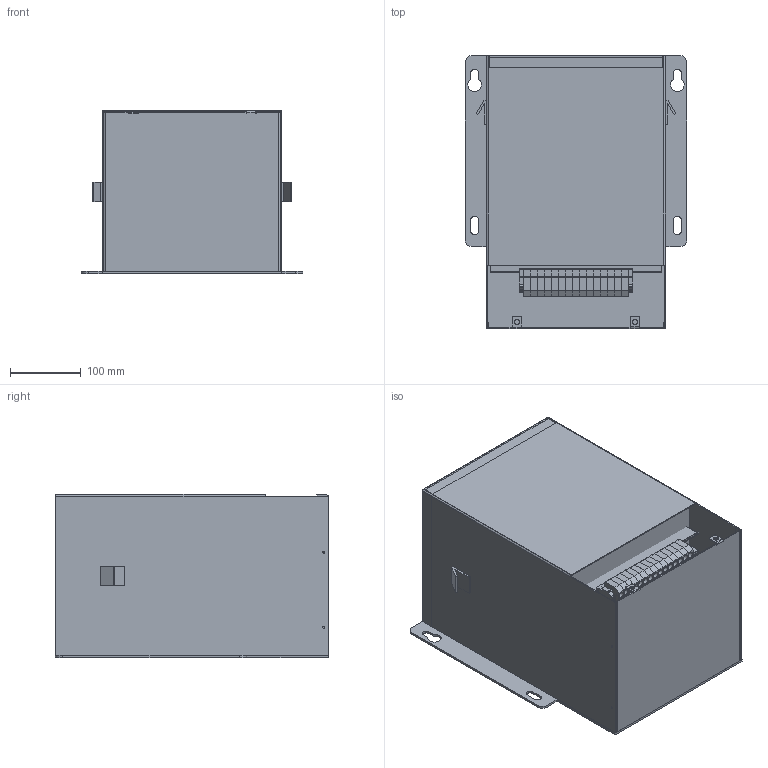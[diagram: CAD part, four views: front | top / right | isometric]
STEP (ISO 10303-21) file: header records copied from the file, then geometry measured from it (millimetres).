
FILE_DESCRIPTION (( 'STEP AP203' ), '1' );
FILE_NAME ('MT-DOE16-FP-3P-690D-2KVA-400Y-N3R.STEP', '2025-02-26T21:10:05', ( '' ), ( '' ), 'SwSTEP 2.0', 'SolidWorks 2020', '' );
FILE_SCHEMA (( 'CONFIG_CONTROL_DESIGN' ));
Length unit declared in the file: inch
Products named in the file (11): MT-DOE16-FP-3P-690D-2KVA-400Y-N3R-Part#2; MT-ISX-FP-3P-480Y-3KVA-480D-N3R; MT-DOE16-FP-3P-690D-2KVA-400Y-N3R-Part#3; MT-DOE16-FP-3P-690D-2KVA-400Y-N3R-Part#7; MT-DOE16-FP-3P-690D-2KVA-400Y-N3R-Part#4; MT-DOE16-FP-3P-690D-2KVA-400Y-N3R-Part#8_9473T57; MT-DOE16-FP-3P-690D-2KVA-400Y-N3R-Part#5; MT-DOE16-FP-3P-690D-2KVA-400Y-N3R-Part#1; MT-DOE16-FP-3P-690D-2KVA-400Y-N3R-Part#9; MT-DOE16-FP-3P-690D-2KVA-400Y-N3R-Part#10; MT-DOE16-FP-3P-690D-2KVA-400Y-N3R
Assembly tree (32 placements, depth 2):
  MT-DOE16-FP-3P-690D-2KVA-400Y-N3R
    MT-DOE16-FP-3P-690D-2KVA-400Y-N3R-Part#1
    MT-DOE16-FP-3P-690D-2KVA-400Y-N3R-Part#2
    MT-DOE16-FP-3P-690D-2KVA-400Y-N3R-Part#3
    MT-DOE16-FP-3P-690D-2KVA-400Y-N3R-Part#4  x2
    MT-ISX-FP-3P-480Y-3KVA-480D-N3R
    MT-DOE16-FP-3P-690D-2KVA-400Y-N3R-Part#5
    MT-DOE16-FP-3P-690D-2KVA-400Y-N3R-Part#7  x2
    MT-DOE16-FP-3P-690D-2KVA-400Y-N3R-Part#8_9473T57  x19
    MT-DOE16-FP-3P-690D-2KVA-400Y-N3R-Part#9  x2
    MT-DOE16-FP-3P-690D-2KVA-400Y-N3R-Part#10  x2
Bounding box: 314.45 x 387.38 x 231.78 mm (x, y, z)
Volume: 1665242.3 mm3; surface area: 1424348 mm2
Topology: 32 solids, 32 shells, 2806 faces, 7747 edges, 5110 vertices
Faces by surface type: plane 1748, cylinder 962, cone 92, bspline 4
Entity records: 18721 total; most frequent: CARTESIAN_POINT 3237, DIRECTION 2872, ORIENTED_EDGE 2856, EDGE_CURVE 1428, VECTOR 1066, LINE 1066, VERTEX_POINT 924, AXIS2_PLACEMENT_3D 903
